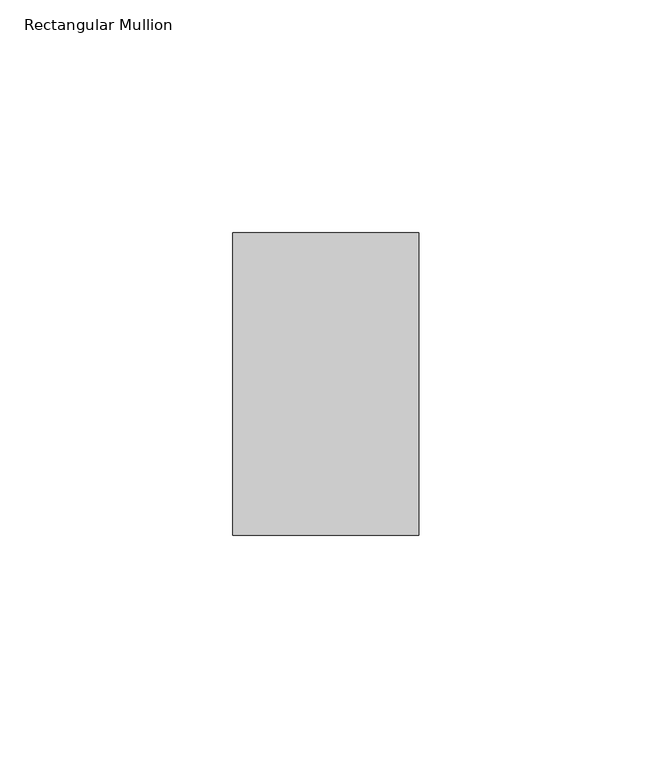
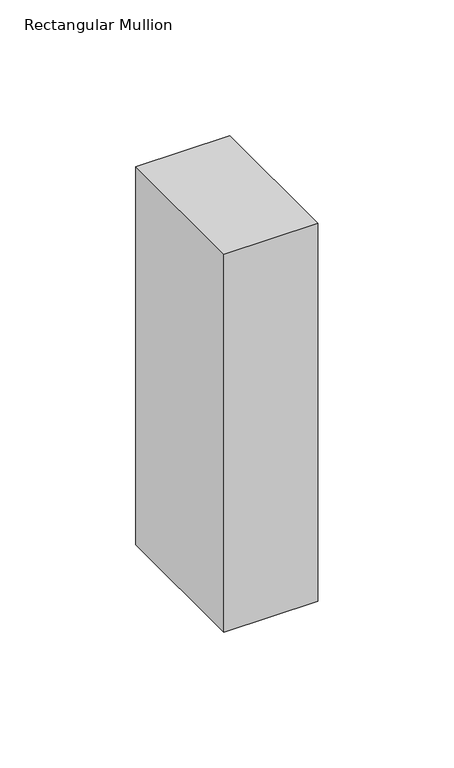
"""IFC4 building model written with IfcOpenShell, lengths in millimetres: member geometry, Rectangular Mullion : Batten_Timber_Modinex_Austratus_Grid_Fascia_40x65_Blackbutt."""

from ifc_helpers import new_model, si_unit, frame, origin, place, context, project, spatial, polyline, outline, extrude, source, transform, mapped, element, save


def rectangular_mullion_3f5c4dc5(model_context):
    return source(origin(), model_context, "Body", "SweptSolid", [
        extrude(outline(polyline([(-40.0, 65.0), (0.0, 65.0), (0.0, 0.0), (-40.0, 0.0), (-40.0, 65.0)])), frame((0.0, 0.0, -170.0), z_axis=(0.0, 0.0, 1.0), x_axis=(1.0, 0.0, 0.0)), (0.0, 0.0, 1.0), 170.0),
    ])


if __name__ == "__main__":
    model = new_model("IFC4")
    model_context = context("Model", 3, world=origin())
    ifc_project = project(units=[si_unit("LENGTHUNIT", "METRE", prefix="MILLI")], contexts=[model_context])
    site = spatial("IfcSite", under=ifc_project)
    building = spatial("IfcBuilding", under=site)
    placement = place(None, origin())
    rectangular_mullion_shape = rectangular_mullion_3f5c4dc5(model_context)
    element("IfcMember", 1, ObjectType="Rectangular Mullion : Batten_Timber_Modinex_Austratus_Grid_Fascia_40x65_Blackbutt", at=placement, inside=building, context=model_context, shape_type="MappedRepresentation", body=[
        mapped(rectangular_mullion_shape, transform((0.0, 0.0, 0.0), x_axis=(1.0, 0.0, 0.0), y_axis=(0.0, 1.0, 0.0), z_axis=(0.0, 0.0, 1.0))),
    ])
    save(model, "model.ifc")
